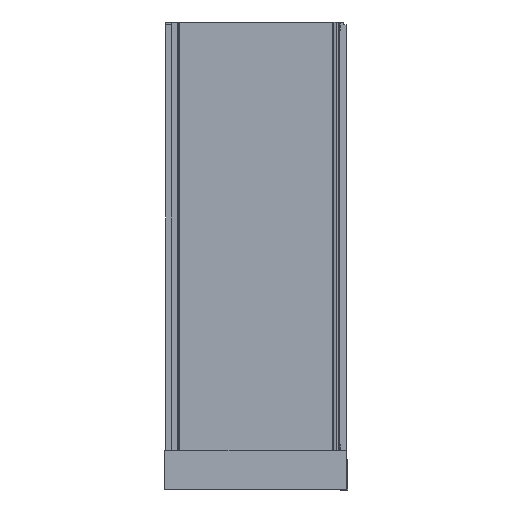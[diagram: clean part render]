
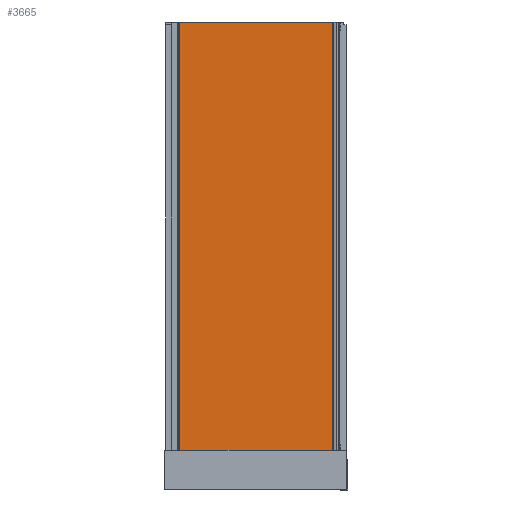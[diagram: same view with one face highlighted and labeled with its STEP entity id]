
A CAD part, left-side view. The second image highlights one B-rep face of the part: STEP entity #3665.
In plain terms, the highlighted planar face has unit normal (-1, 0, 0).
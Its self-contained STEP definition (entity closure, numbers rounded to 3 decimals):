
#3586=CARTESIAN_POINT('',(-964.701,-57.206,164.56));
#3587=VERTEX_POINT('',#3586);
#3594=CARTESIAN_POINT('',(-964.701,-57.206,2061.56));
#3595=VERTEX_POINT('',#3594);
#3596=CARTESIAN_POINT('',(-964.701,-57.206,2061.56));
#3597=DIRECTION('',(0.0,0.0,-1.0));
#3598=VECTOR('',#3597,1897.0);
#3599=LINE('',#3596,#3598);
#3600=EDGE_CURVE('',#3595,#3587,#3599,.T.);
#3625=CARTESIAN_POINT('',(-964.701,-750.206,164.56));
#3626=VERTEX_POINT('',#3625);
#3633=CARTESIAN_POINT('',(-964.701,-57.206,164.56));
#3634=DIRECTION('',(0.0,-1.0,0.0));
#3635=VECTOR('',#3634,693.);
#3636=LINE('',#3633,#3635);
#3637=EDGE_CURVE('',#3587,#3626,#3636,.T.);
#3642=CARTESIAN_POINT('',(-964.701,-27.556,69.71));
#3643=DIRECTION('',(-1.0,0.0,0.0));
#3644=DIRECTION('',(0.0,-1.0,0.0));
#3645=AXIS2_PLACEMENT_3D('',#3642,#3643,#3644);
#3646=PLANE('',#3645);
#3647=CARTESIAN_POINT('',(-964.701,-750.206,2061.56));
#3648=VERTEX_POINT('',#3647);
#3649=CARTESIAN_POINT('',(-964.701,-57.206,2061.56));
#3650=DIRECTION('',(0.0,-1.0,0.0));
#3651=VECTOR('',#3650,693.);
#3652=LINE('',#3649,#3651);
#3653=EDGE_CURVE('',#3595,#3648,#3652,.T.);
#3654=ORIENTED_EDGE('',*,*,#3653,.F.);
#3655=ORIENTED_EDGE('',*,*,#3600,.T.);
#3656=ORIENTED_EDGE('',*,*,#3637,.T.);
#3657=CARTESIAN_POINT('',(-964.701,-750.206,164.56));
#3658=DIRECTION('',(0.0,0.0,1.0));
#3659=VECTOR('',#3658,1897.0);
#3660=LINE('',#3657,#3659);
#3661=EDGE_CURVE('',#3626,#3648,#3660,.T.);
#3662=ORIENTED_EDGE('',*,*,#3661,.T.);
#3663=EDGE_LOOP('',(#3654,#3655,#3656,#3662));
#3664=FACE_OUTER_BOUND('',#3663,.T.);
#3665=ADVANCED_FACE('',(#3664),#3646,.T.);
